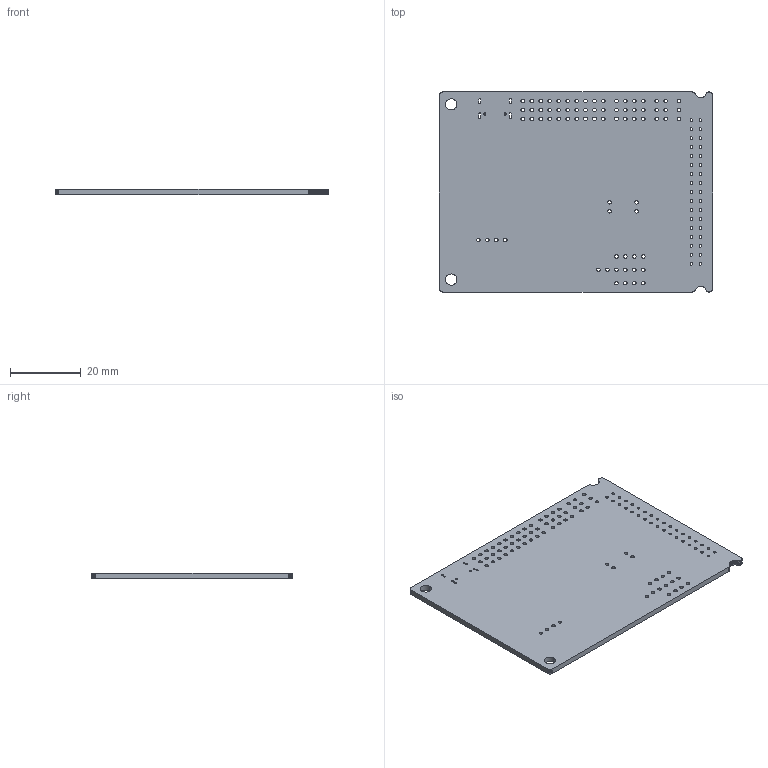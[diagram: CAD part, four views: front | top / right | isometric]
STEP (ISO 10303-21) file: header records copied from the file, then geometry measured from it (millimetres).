
FILE_DESCRIPTION (( 'STEP AP214' ), '1' );
FILE_NAME ('PCB_navX2-mxp-cad.step', '2025-12-23T15:53:48', ( '' ), ( '' ), 'SwSTEP 2.0', 'SolidWorks 2026', '' );
FILE_SCHEMA (( 'AUTOMOTIVE_DESIGN' ));
Length unit declared in the file: inch
Products named in the file (1): PCB_navX2-mxp-cad
Bounding box: 77.47 x 56.64 x 1.58 mm (x, y, z)
Volume: 6771.3 mm3; surface area: 9549.6 mm2
Topology: 1 solids, 1 shells, 396 faces, 1182 edges, 788 vertices
Faces by surface type: cylinder 222, plane 174
Entity records: 13957 total; most frequent: DIRECTION 2420, CARTESIAN_POINT 2367, ORIENTED_EDGE 2364, EDGE_CURVE 1182, AXIS2_PLACEMENT_3D 841, VERTEX_POINT 788, VECTOR 738, LINE 738
